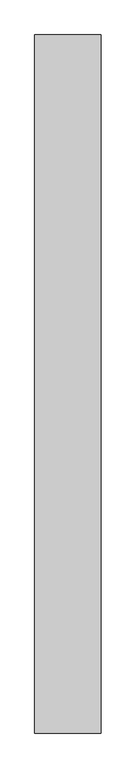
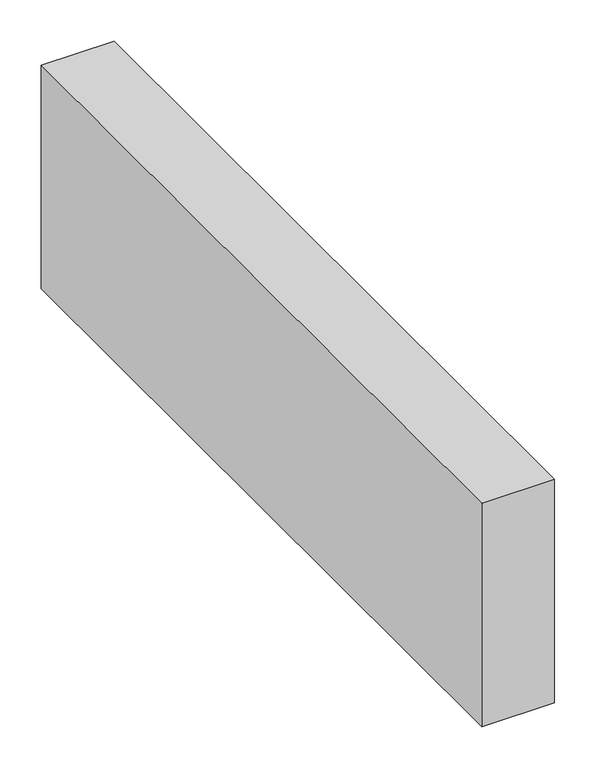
"""IFC4 building model written with IfcOpenShell, lengths in millimetres: furniture geometry, Steelcase Coalesse - Await - Table - Connector : 42D - No Tablet."""

from ifc_helpers import new_model, si_unit, frame, origin, place, context, project, spatial, polyline, outline, extrude, source, transform, mapped, element, save


def furniture_8759d724(model_context):
    return source(origin(), model_context, "Body", "SweptSolid", [
        extrude(outline(polyline([(-613.117922, 749.6403236), (-613.117922, -317.1596764), (-714.717922, -317.1596764), (-714.717922, 749.6403236), (-613.117922, 749.6403236)])), frame((0.0, 0.0, 57.15), z_axis=(0.0, 0.0, 1.0), x_axis=(1.0, 0.0, 0.0)), (0.0, 0.0, 1.0), 330.2),
    ])


if __name__ == "__main__":
    model = new_model("IFC4")
    model_context = context("Model", 3, world=origin())
    ifc_project = project(units=[si_unit("LENGTHUNIT", "METRE", prefix="MILLI")], contexts=[model_context])
    site = spatial("IfcSite", under=ifc_project)
    building = spatial("IfcBuilding", under=site)
    placement = place(None, origin())
    furniture_shape = furniture_8759d724(model_context)
    element("IfcFurniture", 1, ObjectType="Steelcase Coalesse - Await - Table - Connector : 42D - No Tablet", at=placement, inside=building, context=model_context, shape_type="MappedRepresentation", body=[
        mapped(furniture_shape, transform((0.0, 0.0, 0.0), x_axis=(1.0, 0.0, 0.0), y_axis=(0.0, 1.0, 0.0), z_axis=(0.0, 0.0, 1.0))),
    ])
    save(model, "model.ifc")
